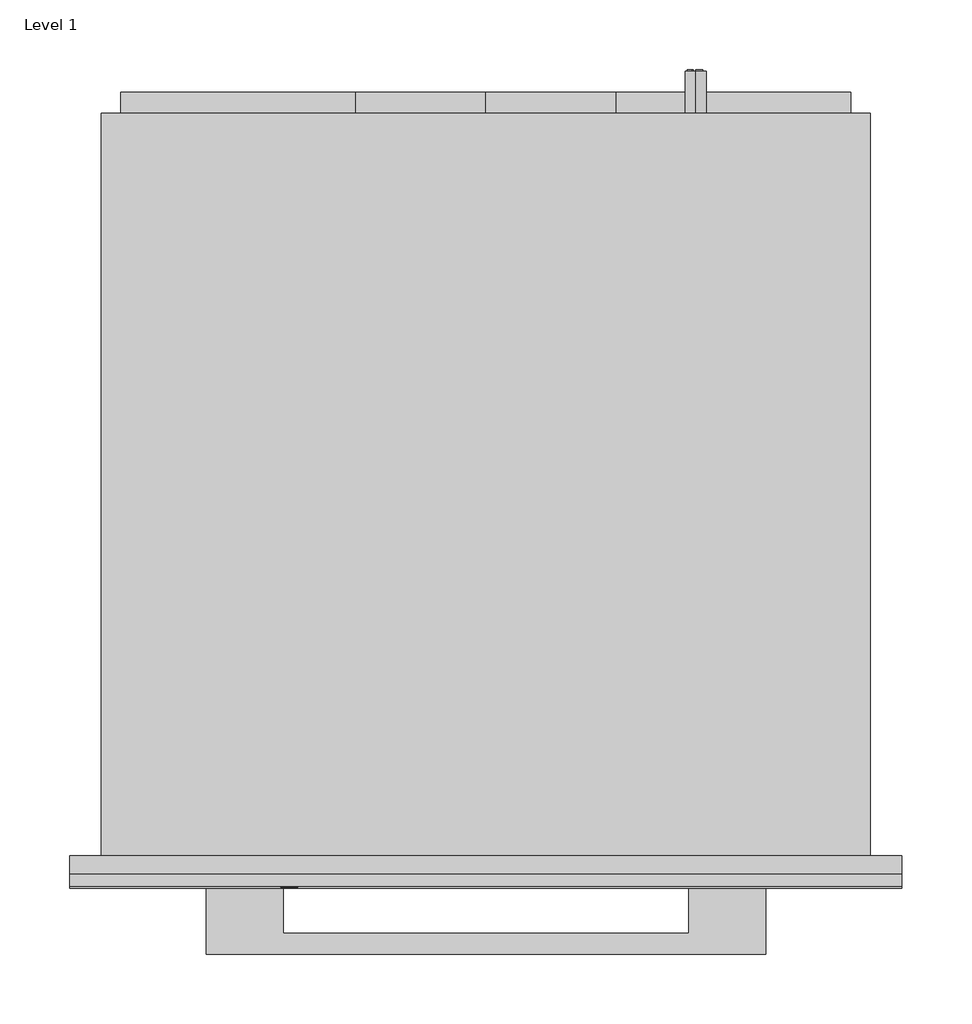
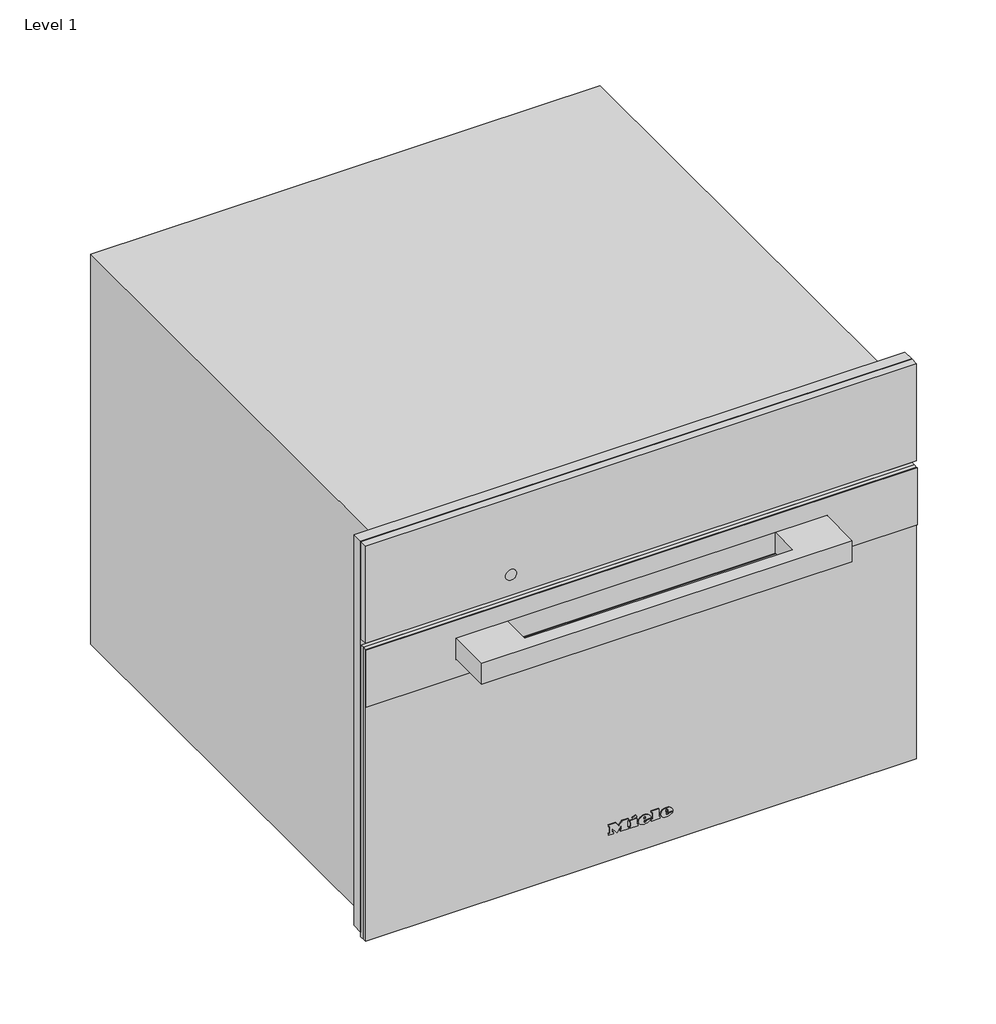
# One storey: 1 proxy.
"""IFC4 building model written with IfcOpenShell, lengths in millimetres."""

from ifc_helpers import new_model, si_unit, origin, place, context, project, spatial, transform, mapped, element, save
from components import specialty_equipment_27a60789

model = new_model("IFC4")

# Units and contexts
model_context = context("Model", 3, world=origin())
ifc_project = project(units=[si_unit("LENGTHUNIT", "METRE", prefix="MILLI")], contexts=[model_context])

# Site, building, storey
site = spatial("IfcSite", under=ifc_project)
building = spatial("IfcBuilding", under=site)
storey = spatial("IfcBuildingStorey", under=building, Name="Level 1", Elevation=0.0)

# Proxy
placement = place(None, origin())
specialty_equipment_shape = specialty_equipment_27a60789(model_context)
element("IfcBuildingElementProxy", 1, Name="11106310_D_DG2840_EDST-CLST : 23284040_D_11106310_DG2840_EDST-CLST", ObjectType="11106310_D_DG2840_EDST-CLST : 23284040_D_11106310_DG2840_EDST-CLST", at=placement, inside=storey, context=model_context, shape_type="MappedRepresentation", body=[
    mapped(specialty_equipment_shape, transform((0.0, 0.0, 0.0), x_axis=(1.0, 0.0, 0.0), y_axis=(0.0, 1.0, 0.0), z_axis=(0.0, 0.0, 1.0))),
])

save(model, "model.ifc")
